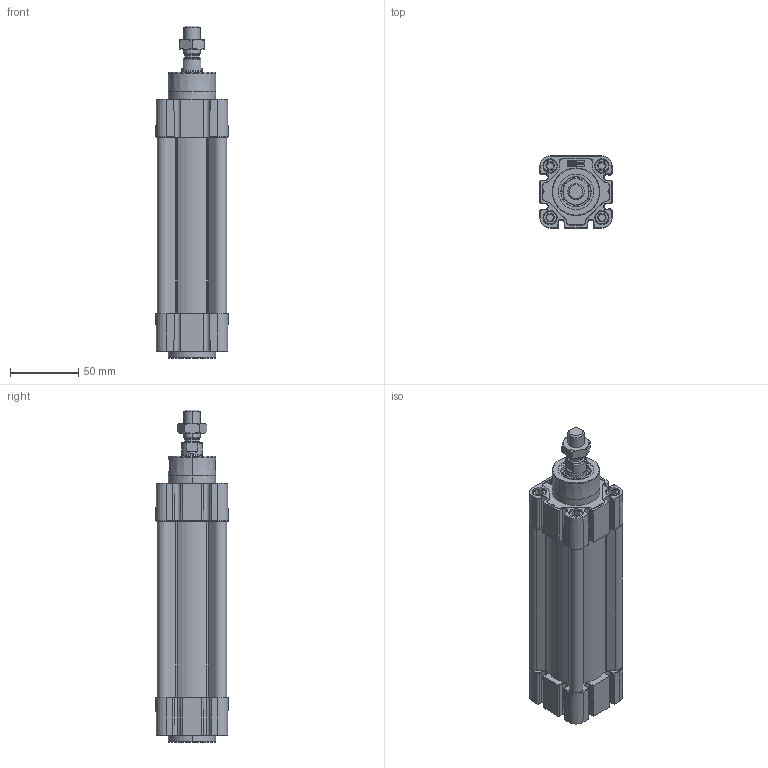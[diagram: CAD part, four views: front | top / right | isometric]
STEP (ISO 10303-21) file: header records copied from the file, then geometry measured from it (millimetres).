
FILE_DESCRIPTION (( 'STEP AP214' ), '1' );
FILE_NAME ('E11M20400080.STEP', '2021-10-25T15:54:25', ( '' ), ( '' ), 'SwSTEP 2.0', 'SolidWorks 2016', '' );
FILE_SCHEMA (( 'AUTOMOTIVE_DESIGN' ));
Length unit declared in the file: millimetre
Products named in the file (7): E11M20400080; 21.B01.0000_21.B01.0080; Pistone Ø40 ISO 15552; TA Ø40 ISO 15552 WEB; 21.751.0; 000.531.7_000.531.0080; TP Ø40 ISO 15552 WEB
Assembly tree (6 placements, depth 2):
  E11M20400080
    TP Ø40 ISO 15552 WEB
    TA Ø40 ISO 15552 WEB
    000.531.7_000.531.0080
    Pistone Ø40 ISO 15552
    21.B01.0000_21.B01.0080
    21.751.0
Bounding box: 53.07 x 53.09 x 244 mm (x, y, z)
Volume: 305280.6 mm3; surface area: 148322.8 mm2
Topology: 17 solids, 17 shells, 1452 faces, 3682 edges, 2328 vertices
Faces by surface type: plane 692, cylinder 467, cone 212, torus 65, bspline 16
Entity records: 57919 total; most frequent: CARTESIAN_POINT 8280, DIRECTION 7835, ORIENTED_EDGE 7364, EDGE_CURVE 3682, AXIS2_PLACEMENT_3D 2841, VERTEX_POINT 2328, LINE 2153, VECTOR 2153
